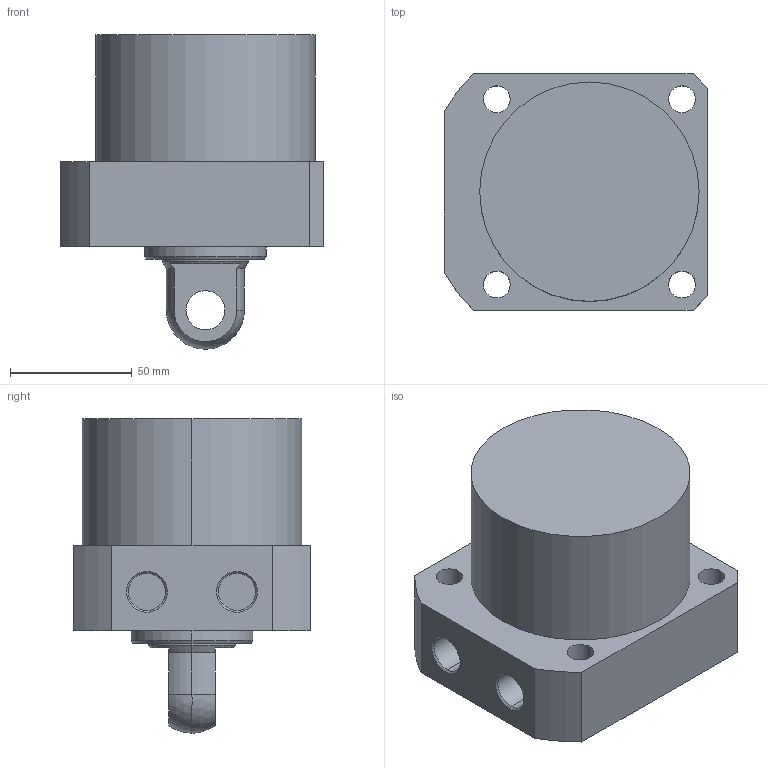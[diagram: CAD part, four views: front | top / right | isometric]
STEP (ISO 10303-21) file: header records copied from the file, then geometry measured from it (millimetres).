
FILE_DESCRIPTION (( 'STEP AP203' ), '1' );
FILE_NAME ('CLLR-090CP-030.STEP', '2019-12-19T03:21:53', ( '' ), ( '' ), 'SwSTEP 2.0', 'SolidWorks 2015', '' );
FILE_SCHEMA (( 'CONFIG_CONTROL_DESIGN' ));
Length unit declared in the file: millimetre
Products named in the file (1): CLLR-090CP-030
Bounding box: 108 x 97 x 129 mm (x, y, z)
Volume: 693281.7 mm3; surface area: 59402.2 mm2
Topology: 1 solids, 1 shells, 57 faces, 135 edges, 87 vertices
Faces by surface type: cylinder 29, plane 18, cone 8, sphere 2
Entity records: 1770 total; most frequent: DIRECTION 319, CARTESIAN_POINT 292, ORIENTED_EDGE 270, EDGE_CURVE 135, AXIS2_PLACEMENT_3D 130, VERTEX_POINT 87, EDGE_LOOP 74, CIRCLE 72
